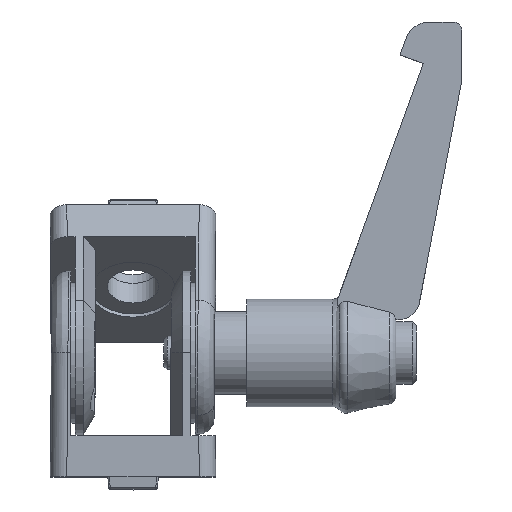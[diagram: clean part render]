
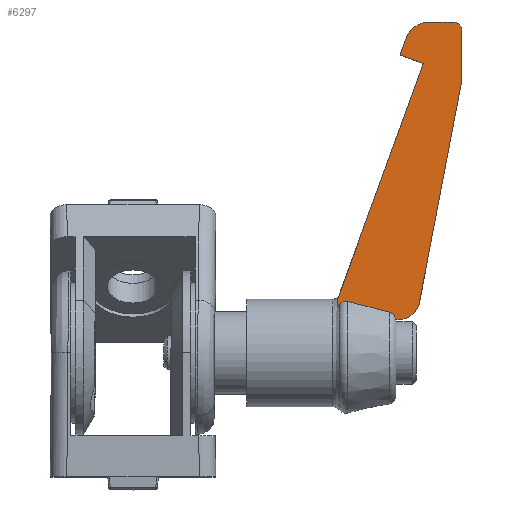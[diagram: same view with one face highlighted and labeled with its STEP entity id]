
A CAD part, top view. The second image highlights one B-rep face of the part: STEP entity #6297.
In plain terms, the highlighted planar face has unit normal (0, 0, 1).
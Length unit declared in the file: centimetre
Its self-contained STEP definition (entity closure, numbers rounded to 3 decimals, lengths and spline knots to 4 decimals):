
#4577=CARTESIAN_POINT('',(2.4938,2.0784,0.375));
#4578=VERTEX_POINT('',#4577);
#4599=CARTESIAN_POINT('',(2.5941,2.1223,0.375));
#4600=VERTEX_POINT('',#4599);
#4608=CARTESIAN_POINT('',(2.5941,2.1223,0.375));
#4609=CARTESIAN_POINT('',(2.575,2.127,0.375));
#4610=CARTESIAN_POINT('',(2.5546,2.1249,0.375));
#4611=CARTESIAN_POINT('',(2.5192,2.1087,0.375));
#4612=CARTESIAN_POINT('',(2.5044,2.095,0.375));
#4613=CARTESIAN_POINT('',(2.4938,2.0784,0.375));
#4614=B_SPLINE_CURVE_WITH_KNOTS('',3,(#4608,#4609,#4610,#4611,#4612,#4613),.UNSPECIFIED.,.F.,.U.,(4,2,4),(0.0,0.0006,0.0012),.UNSPECIFIED.);
#4615=EDGE_CURVE('',#4600,#4578,#4614,.T.);
#4627=CARTESIAN_POINT('',(3.0991,1.9926,0.375));
#4628=VERTEX_POINT('',#4627);
#4665=CARTESIAN_POINT('',(3.1735,1.905,0.375));
#4666=VERTEX_POINT('',#4665);
#4674=CARTESIAN_POINT('',(3.0991,1.9926,0.375));
#4675=CARTESIAN_POINT('',(3.1187,1.9873,0.375));
#4676=CARTESIAN_POINT('',(3.1355,1.975,0.375));
#4677=CARTESIAN_POINT('',(3.1607,1.9434,0.375));
#4678=CARTESIAN_POINT('',(3.1688,1.9247,0.375));
#4679=CARTESIAN_POINT('',(3.1735,1.905,0.375));
#4680=B_SPLINE_CURVE_WITH_KNOTS('',3,(#4674,#4675,#4676,#4677,#4678,#4679),.UNSPECIFIED.,.F.,.U.,(4,2,4),(0.,0.0006,0.0012),.UNSPECIFIED.);
#4681=EDGE_CURVE('',#4628,#4666,#4680,.T.);
#4751=CARTESIAN_POINT('',(2.4733,2.0544,0.375));
#4752=VERTEX_POINT('',#4751);
#4753=CARTESIAN_POINT('',(2.4938,2.0784,0.375));
#4754=CARTESIAN_POINT('',(2.488,2.0695,0.375));
#4755=CARTESIAN_POINT('',(2.4813,2.0614,0.375));
#4756=CARTESIAN_POINT('',(2.4733,2.0544,0.375));
#4757=B_SPLINE_CURVE_WITH_KNOTS('',3,(#4753,#4754,#4755,#4756),.UNSPECIFIED.,.F.,.U.,(4,4),(0.0,0.0003),.UNSPECIFIED.);
#4758=EDGE_CURVE('',#4578,#4752,#4757,.T.);
#4855=CARTESIAN_POINT('',(3.0991,1.9926,0.375));
#4856=CARTESIAN_POINT('',(2.9312,2.0375,0.375));
#4857=CARTESIAN_POINT('',(2.7628,2.0804,0.375));
#4858=CARTESIAN_POINT('',(2.5941,2.1223,0.375));
#4859=B_SPLINE_CURVE_WITH_KNOTS('',3,(#4855,#4856,#4857,#4858),.UNSPECIFIED.,.F.,.U.,(4,4),(0.0,0.0052),.UNSPECIFIED.);
#4860=EDGE_CURVE('',#4628,#4600,#4859,.T.);
#5667=CARTESIAN_POINT('',(3.2207,1.905,0.375));
#5668=VERTEX_POINT('',#5667);
#5677=CARTESIAN_POINT('',(3.2207,1.905,0.375));
#5678=DIRECTION('',(-1.0,0.,0.));
#5679=VECTOR('',#5678,0.0472);
#5680=LINE('',#5677,#5679);
#5681=EDGE_CURVE('',#5668,#4666,#5680,.T.);
#5716=CARTESIAN_POINT('',(3.9733,4.8019,0.375));
#5717=VERTEX_POINT('',#5716);
#5724=CARTESIAN_POINT('',(3.9703,4.7672,0.375));
#5725=VERTEX_POINT('',#5724);
#5726=CARTESIAN_POINT('',(3.7733,4.8019,0.375));
#5727=DIRECTION('',(0.0,0.0,-1.0));
#5728=DIRECTION('',(0.0,-1.0,0.0));
#5729=AXIS2_PLACEMENT_3D('',#5726,#5727,#5728);
#5730=CIRCLE('',#5729,0.2);
#5731=EDGE_CURVE('',#5717,#5725,#5730,.T.);
#5758=CARTESIAN_POINT('',(3.8733,5.5,0.375));
#5759=VERTEX_POINT('',#5758);
#5766=CARTESIAN_POINT('',(3.9733,5.4,0.375));
#5767=VERTEX_POINT('',#5766);
#5768=CARTESIAN_POINT('',(3.8733,5.4,0.375));
#5769=DIRECTION('',(0.0,0.0,-1.0));
#5770=DIRECTION('',(1.0,0.0,0.0));
#5771=AXIS2_PLACEMENT_3D('',#5768,#5769,#5770);
#5772=CIRCLE('',#5771,0.1);
#5773=EDGE_CURVE('',#5759,#5767,#5772,.T.);
#5913=CARTESIAN_POINT('',(2.4733,2.15,0.375));
#5914=VERTEX_POINT('',#5913);
#5915=CARTESIAN_POINT('',(2.4733,2.0544,0.375));
#5916=DIRECTION('',(0.0,1.0,0.0));
#5917=VECTOR('',#5916,0.0956);
#5918=LINE('',#5915,#5917);
#5919=EDGE_CURVE('',#4752,#5914,#5918,.T.);
#6011=CARTESIAN_POINT('',(3.4613,2.104,0.375));
#6012=VERTEX_POINT('',#6011);
#6019=CARTESIAN_POINT('',(3.2207,2.15,0.375));
#6020=DIRECTION('',(0.0,0.0,1.0));
#6021=DIRECTION('',(0.0,-1.0,0.0));
#6022=AXIS2_PLACEMENT_3D('',#6019,#6020,#6021);
#6023=CIRCLE('',#6022,0.245);
#6024=EDGE_CURVE('',#5668,#6012,#6023,.T.);
#6042=CARTESIAN_POINT('',(3.4613,2.104,0.375));
#6043=DIRECTION('',(0.188,0.982,0.0));
#6044=VECTOR('',#6043,2.7113);
#6045=LINE('',#6042,#6044);
#6046=EDGE_CURVE('',#6012,#5725,#6045,.T.);
#6064=CARTESIAN_POINT('',(3.9733,4.8019,0.375));
#6065=DIRECTION('',(0.0,1.0,0.0));
#6066=VECTOR('',#6065,0.5981);
#6067=LINE('',#6064,#6066);
#6068=EDGE_CURVE('',#5717,#5767,#6067,.T.);
#6087=CARTESIAN_POINT('',(3.5834,5.5,0.375));
#6088=VERTEX_POINT('',#6087);
#6095=CARTESIAN_POINT('',(3.8733,5.5,0.375));
#6096=DIRECTION('',(-1.0,0.0,0.0));
#6097=VECTOR('',#6096,0.2899);
#6098=LINE('',#6095,#6097);
#6099=EDGE_CURVE('',#5759,#6088,#6098,.T.);
#6128=CARTESIAN_POINT('',(3.3015,5.3026,0.375));
#6129=VERTEX_POINT('',#6128);
#6136=CARTESIAN_POINT('',(3.5834,5.2,0.375));
#6137=DIRECTION('',(0.0,0.0,1.0));
#6138=DIRECTION('',(0.0,-1.0,0.0));
#6139=AXIS2_PLACEMENT_3D('',#6136,#6137,#6138);
#6140=CIRCLE('',#6139,0.3);
#6141=EDGE_CURVE('',#6088,#6129,#6140,.T.);
#6164=CARTESIAN_POINT('',(3.2278,5.1,0.375));
#6165=VERTEX_POINT('',#6164);
#6172=CARTESIAN_POINT('',(3.3015,5.3026,0.375));
#6173=DIRECTION('',(-0.342,-0.94,0.0));
#6174=VECTOR('',#6173,0.2156);
#6175=LINE('',#6172,#6174);
#6176=EDGE_CURVE('',#6129,#6165,#6175,.T.);
#6204=CARTESIAN_POINT('',(3.5097,4.9974,0.375));
#6205=VERTEX_POINT('',#6204);
#6212=CARTESIAN_POINT('',(3.2278,5.1,0.375));
#6213=DIRECTION('',(0.94,-0.342,0.0));
#6214=VECTOR('',#6213,0.3);
#6215=LINE('',#6212,#6214);
#6216=EDGE_CURVE('',#6165,#6205,#6215,.T.);
#6240=CARTESIAN_POINT('',(3.5097,4.9974,0.375));
#6241=DIRECTION('',(-0.342,-0.94,0.0));
#6242=VECTOR('',#6241,3.0301);
#6243=LINE('',#6240,#6242);
#6244=EDGE_CURVE('',#6205,#5914,#6243,.T.);
#6274=CARTESIAN_POINT('',(2.4733,5.5,0.375));
#6275=DIRECTION('',(0.0,0.0,1.0));
#6276=DIRECTION('',(1.0,0.0,0.0));
#6277=AXIS2_PLACEMENT_3D('',#6274,#6275,#6276);
#6278=PLANE('',#6277);
#6279=ORIENTED_EDGE('',*,*,#6244,.T.);
#6280=ORIENTED_EDGE('',*,*,#5919,.F.);
#6281=ORIENTED_EDGE('',*,*,#4758,.F.);
#6282=ORIENTED_EDGE('',*,*,#4615,.F.);
#6283=ORIENTED_EDGE('',*,*,#4860,.F.);
#6284=ORIENTED_EDGE('',*,*,#4681,.T.);
#6285=ORIENTED_EDGE('',*,*,#5681,.F.);
#6286=ORIENTED_EDGE('',*,*,#6024,.T.);
#6287=ORIENTED_EDGE('',*,*,#6046,.T.);
#6288=ORIENTED_EDGE('',*,*,#5731,.F.);
#6289=ORIENTED_EDGE('',*,*,#6068,.T.);
#6290=ORIENTED_EDGE('',*,*,#5773,.F.);
#6291=ORIENTED_EDGE('',*,*,#6099,.T.);
#6292=ORIENTED_EDGE('',*,*,#6141,.T.);
#6293=ORIENTED_EDGE('',*,*,#6176,.T.);
#6294=ORIENTED_EDGE('',*,*,#6216,.T.);
#6295=EDGE_LOOP('',(#6279,#6280,#6281,#6282,#6283,#6284,#6285,#6286,#6287,#6288,#6289,#6290,#6291,#6292,#6293,#6294));
#6296=FACE_OUTER_BOUND('',#6295,.T.);
#6297=ADVANCED_FACE('',(#6296),#6278,.T.);
